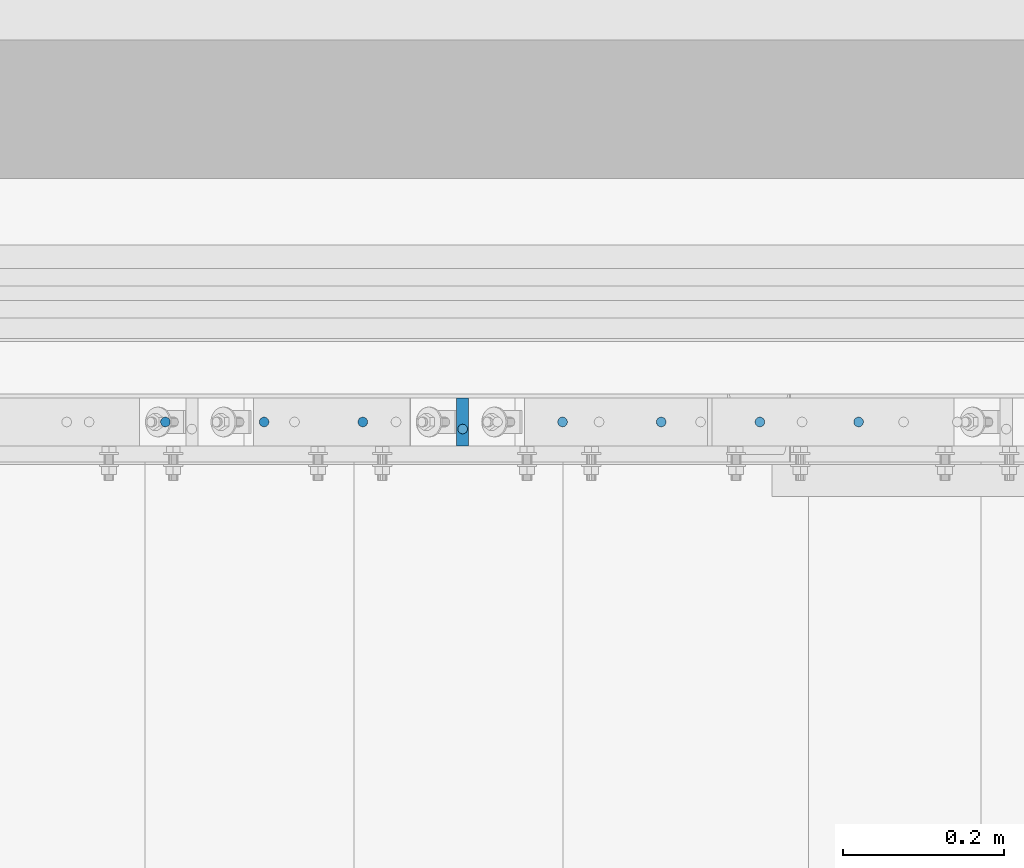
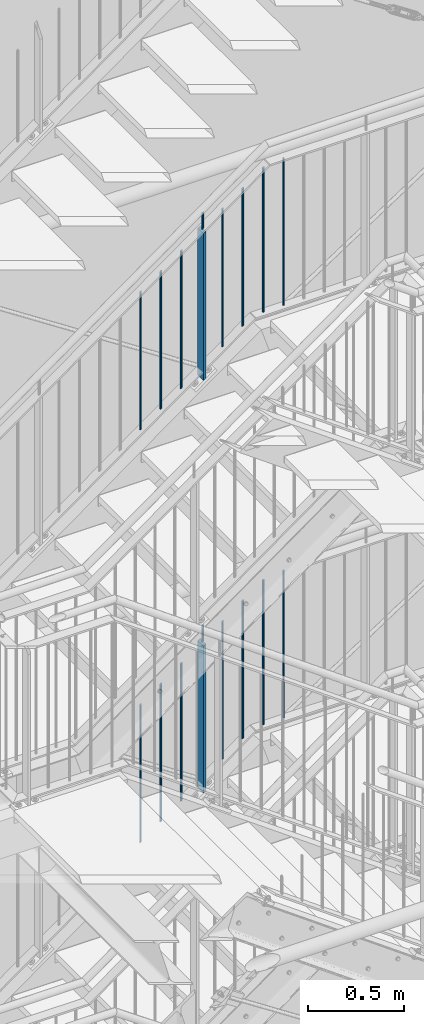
# One storey, part 82 of 831: 18 columns.
"""IFC2X3 building model written with IfcOpenShell, lengths in millimetres."""

from ifc_helpers import new_model, entity, si_unit, converted_unit, frame, origin, origin_with_axes, origin_2d, place, context, project, spatial, rectangle, circle, extrude, clip, halfspace, material, element, save


model = new_model("IFC2X3")

# Units and contexts
model_context = context("Model", 3, precision=1e-09, world=origin_with_axes())
ifc_project = project(units=[si_unit("LENGTHUNIT", "METRE", prefix="MILLI"), si_unit("AREAUNIT", "SQUARE_METRE"), si_unit("VOLUMEUNIT", "CUBIC_METRE"), converted_unit("PLANEANGLEUNIT", "DEGREE", entity("IfcPlaneAngleMeasure", 0.01745329), si_unit("PLANEANGLEUNIT", "RADIAN"), dimensions=[0, 0, 0, 0, 0, 0, 0])], contexts=[model_context])

# Site, building, storey
site_placement = place(None, origin_with_axes())
site = spatial("IfcSite", under=ifc_project, at=site_placement, Name="Site", CompositionType="ELEMENT")
building_placement = place(site_placement, origin_with_axes())
building = spatial("IfcBuilding", under=site, at=building_placement, Name="Struktur 1", CompositionType="ELEMENT")
storey_placement = place(building_placement, origin_with_axes())
storey = spatial("IfcBuildingStorey", under=building, at=storey_placement, Name="Default Storey", CompositionType="ELEMENT", Elevation=0.0)

# Columns
ifc_material = material(Name="S235JR")
column_1_placement = place(None, frame((6671.713688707, 7347.936971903, 9481.925194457), z_axis=(0.0, 0.0, 1.0), x_axis=(0.0, -1.0, 0.0)))
element("IfcColumn", 1, at=column_1_placement, inside=storey, material=ifc_material, Name="Bar#2", ObjectType="Bar#2", context=model_context, shape_type="Clipping", body=[
    clip(clip(extrude(circle(Radius=6.0, at=origin_2d()), origin(), (0.0, 0.0, -1.0), 120.942253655), halfspace(frame((7347.936971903, -8830.865135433, -6495.864683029), z_axis=(0.0, -0.585945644, 0.810350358), x_axis=(1.0, 0.0, 0.0)), True)), halfspace(frame((7347.936971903, -8878.346089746, -6430.199533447), z_axis=(0.0, 0.585945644, -0.810350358), x_axis=(-1.0, 0.0, 0.0)), True)),
])
column_2_placement = place(None, frame((6671.713688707, 7356.736971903, 9397.27412433), z_axis=(0.0, 0.0, 1.0), x_axis=(1.0, 0.0, 0.0)))
element("IfcColumn", 2, at=column_2_placement, inside=storey, material=ifc_material, Name="Railing_Post_Stair#2", ObjectType="Railing_Post_Stair#2", context=model_context, shape_type="Clipping", body=[
    clip(clip(extrude(rectangle(XDim=15.0, YDim=60.0, at=origin_2d()), origin(), (0.0, 0.0, -1.0), 1013.13824851), halfspace(frame((-8380.184833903, -7356.736971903, -7034.494880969), z_axis=(-0.585945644, 0.0, 0.810350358), x_axis=(0.0, -1.0, 0.0)), True)), halfspace(frame((-8825.004507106, -7356.736971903, -6419.318737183), z_axis=(0.585945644, 0.0, -0.810350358), x_axis=(0.0, 1.0, 0.0)), True)),
])
column_3_placement = place(None, frame((6301.963641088, 7356.736971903, 9102.227126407), z_axis=(0.0, 0.0, 1.0), x_axis=(1.0, 0.0, 0.0)))
element("IfcColumn", 3, at=column_3_placement, inside=storey, material=ifc_material, Name="Railing_Picket_Stair#11", ObjectType="Railing_Picket_Stair#11", context=model_context, shape_type="Clipping", body=[
    clip(clip(extrude(circle(Radius=6.0, at=origin_2d()), origin(), (0.0, 0.0, -1.0), 896.057999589), halfspace(frame((-8455.254459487, -7356.736971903, -6124.27173926), z_axis=(0.585945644, 0.0, -0.810350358), x_axis=(0.0, 1.0, 0.0)), True)), halfspace(frame((-8039.732068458, -7356.736971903, -6698.930365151), z_axis=(-0.585945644, 0.0, 0.810350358), x_axis=(0.0, -1.0, 0.0)), True)),
])
column_4_placement = place(None, frame((6424.713664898, 7356.736971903, 9190.98483593), z_axis=(0.0, 0.0, 1.0), x_axis=(1.0, 0.0, 0.0)))
element("IfcColumn", 4, at=column_4_placement, inside=storey, material=ifc_material, Name="Railing_Picket_Stair#12", ObjectType="Railing_Picket_Stair#12", context=model_context, shape_type="Clipping", body=[
    clip(clip(extrude(circle(Radius=6.0, at=origin_2d()), origin(), (0.0, 0.0, -1.0), 896.057999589), halfspace(frame((-8578.004483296, -7356.736971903, -6213.029448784), z_axis=(0.585945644, 0.0, -0.810350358), x_axis=(0.0, 1.0, 0.0)), True)), halfspace(frame((-8162.482092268, -7356.736971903, -6787.688074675), z_axis=(-0.585945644, 0.0, 0.810350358), x_axis=(0.0, -1.0, 0.0)), True)),
])
column_5_placement = place(None, frame((6547.463688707, 7356.736971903, 9279.742545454), z_axis=(0.0, 0.0, 1.0), x_axis=(1.0, 0.0, 0.0)))
element("IfcColumn", 5, at=column_5_placement, inside=storey, material=ifc_material, Name="Railing_Picket_Stair#13", ObjectType="Railing_Picket_Stair#13", context=model_context, shape_type="Clipping", body=[
    clip(clip(extrude(circle(Radius=6.0, at=origin_2d()), origin(), (0.0, 0.0, -1.0), 896.057999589), halfspace(frame((-8700.754507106, -7356.736971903, -6301.787158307), z_axis=(0.585945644, 0.0, -0.810350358), x_axis=(0.0, 1.0, 0.0)), True)), halfspace(frame((-8285.232116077, -7356.736971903, -6876.445784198), z_axis=(-0.585945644, 0.0, 0.810350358), x_axis=(0.0, -1.0, 0.0)), True)),
])
column_6_placement = place(None, frame((6795.963688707, 7356.736971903, 9459.427160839), z_axis=(0.0, 0.0, 1.0), x_axis=(1.0, 0.0, 0.0)))
element("IfcColumn", 6, at=column_6_placement, inside=storey, material=ifc_material, Name="Railing_Picket_Stair#14", ObjectType="Railing_Picket_Stair#14", context=model_context, shape_type="Clipping", body=[
    clip(clip(extrude(circle(Radius=6.0, at=origin_2d()), origin(), (0.0, 0.0, -1.0), 896.057999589), halfspace(frame((-8949.254507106, -7356.736971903, -6481.471773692), z_axis=(0.585945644, 0.0, -0.810350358), x_axis=(0.0, 1.0, 0.0)), True)), halfspace(frame((-8533.732116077, -7356.736971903, -7056.130399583), z_axis=(-0.585945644, 0.0, 0.810350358), x_axis=(0.0, -1.0, 0.0)), True)),
])
column_7_placement = place(None, frame((6918.713712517, 7356.736971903, 9548.184870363), z_axis=(0.0, 0.0, 1.0), x_axis=(1.0, 0.0, 0.0)))
element("IfcColumn", 7, at=column_7_placement, inside=storey, material=ifc_material, Name="Railing_Picket_Stair#15", ObjectType="Railing_Picket_Stair#15", context=model_context, shape_type="Clipping", body=[
    clip(clip(extrude(circle(Radius=6.0, at=origin_2d()), origin(), (0.0, 0.0, -1.0), 896.057999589), halfspace(frame((-9072.004530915, -7356.736971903, -6570.229483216), z_axis=(0.585945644, 0.0, -0.810350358), x_axis=(0.0, 1.0, 0.0)), True)), halfspace(frame((-8656.482139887, -7356.736971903, -7144.888109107), z_axis=(-0.585945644, 0.0, 0.810350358), x_axis=(0.0, -1.0, 0.0)), True)),
])
column_8_placement = place(None, frame((7041.463736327, 7356.736971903, 9636.942579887), z_axis=(0.0, 0.0, 1.0), x_axis=(1.0, 0.0, 0.0)))
element("IfcColumn", 8, at=column_8_placement, inside=storey, material=ifc_material, Name="Railing_Picket_Landing#16", ObjectType="Railing_Picket_Landing#16", context=model_context, shape_type="Clipping", body=[
    clip(extrude(circle(Radius=6.0, at=origin_2d()), origin(), (0.0, 0.0, -1.0), 930.942579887), halfspace(frame((-9194.754554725, -7356.736971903, -6658.98719274), z_axis=(0.585945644, 0.0, -0.810350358), x_axis=(0.0, 1.0, 0.0)), True)),
])
column_9_placement = place(None, frame((7164.213760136, 7356.736971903, 9658.285281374), z_axis=(0.0, 0.0, 1.0), x_axis=(1.0, 0.0, 0.0)))
element("IfcColumn", 9, at=column_9_placement, inside=storey, material=ifc_material, Name="Railing_Picket_Landing#17", ObjectType="Railing_Picket_Landing#17", context=model_context, shape_type="Clipping", body=[
    clip(clip(extrude(circle(Radius=6.0, at=origin_2d()), origin(), (0.0, 0.0, -1.0), 965.770562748), halfspace(frame((-7164.213760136, -7356.736971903, -13.486281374), z_axis=(0.0, 0.0, -1.0), x_axis=(-1.0, 0.0, 0.0)), True)), halfspace(frame((-7164.213760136, -7356.736971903, -952.284281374), z_axis=(0.0, 0.0, 1.0), x_axis=(1.0, 0.0, 0.0)), True)),
])
column_10_placement = place(None, frame((6671.713688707, 7356.736971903, 12027.303192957), z_axis=(0.0, 0.0, 1.0), x_axis=(1.0, 0.0, 0.0)))
element("IfcColumn", 10, at=column_10_placement, inside=storey, material=ifc_material, Name="Railing_Post_Stair#2", ObjectType="Railing_Post_Stair#2", context=model_context, shape_type="Clipping", body=[
    clip(clip(extrude(rectangle(XDim=15.0, YDim=60.0, at=origin_2d()), origin(), (0.0, 0.0, -1.0), 1013.129684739), halfspace(frame((-9631.55343364, -7356.736971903, -7926.116794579), z_axis=(-0.585213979, 0.0, 0.810878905), x_axis=(0.0, -1.0, 0.0)), True)), halfspace(frame((-10076.126978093, -7356.736971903, -7310.110817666), z_axis=(0.585213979, 0.0, -0.810878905), x_axis=(0.0, 1.0, 0.0)), True)),
])
column_11_placement = place(None, frame((6301.963641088, 7356.736971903, 11732.782141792), z_axis=(0.0, 0.0, 1.0), x_axis=(1.0, 0.0, 0.0)))
element("IfcColumn", 11, at=column_11_placement, inside=storey, material=ifc_material, Name="Railing_Picket_Stair#11", ObjectType="Railing_Picket_Stair#11", context=model_context, shape_type="Clipping", body=[
    clip(clip(extrude(circle(Radius=6.0, at=origin_2d()), origin(), (0.0, 0.0, -1.0), 896.125751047), halfspace(frame((-9706.376930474, -7356.736971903, -7015.589766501), z_axis=(0.585213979, 0.0, -0.810878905), x_axis=(0.0, 1.0, 0.0)), True)), halfspace(frame((-9291.064084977, -7356.736971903, -7591.051798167), z_axis=(-0.585213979, 0.0, 0.810878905), x_axis=(0.0, -1.0, 0.0)), True)),
])
column_12_placement = place(None, frame((6424.713664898, 7356.736971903, 11821.37123867), z_axis=(0.0, 0.0, 1.0), x_axis=(1.0, 0.0, 0.0)))
element("IfcColumn", 12, at=column_12_placement, inside=storey, material=ifc_material, Name="Railing_Picket_Stair#12", ObjectType="Railing_Picket_Stair#12", context=model_context, shape_type="Clipping", body=[
    clip(clip(extrude(circle(Radius=6.0, at=origin_2d()), origin(), (0.0, 0.0, -1.0), 896.125751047), halfspace(frame((-9829.126954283, -7356.736971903, -7104.17886338), z_axis=(0.585213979, 0.0, -0.810878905), x_axis=(0.0, 1.0, 0.0)), True)), halfspace(frame((-9413.814108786, -7356.736971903, -7679.640895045), z_axis=(-0.585213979, 0.0, 0.810878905), x_axis=(0.0, -1.0, 0.0)), True)),
])
column_13_placement = place(None, frame((6547.463688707, 7356.736971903, 11909.960335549), z_axis=(0.0, 0.0, 1.0), x_axis=(1.0, 0.0, 0.0)))
element("IfcColumn", 13, at=column_13_placement, inside=storey, material=ifc_material, Name="Railing_Picket_Stair#13", ObjectType="Railing_Picket_Stair#13", context=model_context, shape_type="Clipping", body=[
    clip(clip(extrude(circle(Radius=6.0, at=origin_2d()), origin(), (0.0, 0.0, -1.0), 896.125751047), halfspace(frame((-9951.876978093, -7356.736971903, -7192.767960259), z_axis=(0.585213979, 0.0, -0.810878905), x_axis=(0.0, 1.0, 0.0)), True)), halfspace(frame((-9536.564132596, -7356.736971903, -7768.229991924), z_axis=(-0.585213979, 0.0, 0.810878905), x_axis=(0.0, -1.0, 0.0)), True)),
])
column_14_placement = place(None, frame((6795.963688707, 7356.736971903, 12089.30360483), z_axis=(0.0, 0.0, 1.0), x_axis=(1.0, 0.0, 0.0)))
element("IfcColumn", 14, at=column_14_placement, inside=storey, material=ifc_material, Name="Railing_Picket_Stair#14", ObjectType="Railing_Picket_Stair#14", context=model_context, shape_type="Clipping", body=[
    clip(clip(extrude(circle(Radius=6.0, at=origin_2d()), origin(), (0.0, 0.0, -1.0), 896.125751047), halfspace(frame((-10200.376978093, -7356.736971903, -7372.11122954), z_axis=(0.585213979, 0.0, -0.810878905), x_axis=(0.0, 1.0, 0.0)), True)), halfspace(frame((-9785.064132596, -7356.736971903, -7947.573261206), z_axis=(-0.585213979, 0.0, 0.810878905), x_axis=(0.0, -1.0, 0.0)), True)),
])
column_15_placement = place(None, frame((6918.713712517, 7356.736971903, 12177.892701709), z_axis=(0.0, 0.0, 1.0), x_axis=(1.0, 0.0, 0.0)))
element("IfcColumn", 15, at=column_15_placement, inside=storey, material=ifc_material, Name="Railing_Picket_Stair#15", ObjectType="Railing_Picket_Stair#15", context=model_context, shape_type="Clipping", body=[
    clip(clip(extrude(circle(Radius=6.0, at=origin_2d()), origin(), (0.0, 0.0, -1.0), 896.125751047), halfspace(frame((-10323.127001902, -7356.736971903, -7460.700326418), z_axis=(0.585213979, 0.0, -0.810878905), x_axis=(0.0, 1.0, 0.0)), True)), halfspace(frame((-9907.814156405, -7356.736971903, -8036.162358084), z_axis=(-0.585213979, 0.0, 0.810878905), x_axis=(0.0, -1.0, 0.0)), True)),
])
column_16_placement = place(None, frame((7041.463736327, 7356.736971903, 12266.481798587), z_axis=(0.0, 0.0, 1.0), x_axis=(1.0, 0.0, 0.0)))
element("IfcColumn", 16, at=column_16_placement, inside=storey, material=ifc_material, Name="Railing_Picket_Landing#16", ObjectType="Railing_Picket_Landing#16", context=model_context, shape_type="Clipping", body=[
    clip(extrude(circle(Radius=6.0, at=origin_2d()), origin(), (0.0, 0.0, -1.0), 930.981798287), halfspace(frame((-10445.877025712, -7356.736971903, -7549.289423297), z_axis=(0.585213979, 0.0, -0.810878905), x_axis=(0.0, 1.0, 0.0)), True)),
])
column_17_placement = place(None, frame((7164.213760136, 7356.736971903, 12287.785281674), z_axis=(0.0, 0.0, 1.0), x_axis=(1.0, 0.0, 0.0)))
element("IfcColumn", 17, at=column_17_placement, inside=storey, material=ifc_material, Name="Railing_Picket_Landing#17", ObjectType="Railing_Picket_Landing#17", context=model_context, shape_type="Clipping", body=[
    clip(clip(extrude(circle(Radius=6.0, at=origin_2d()), origin(), (0.0, 0.0, -1.0), 965.770562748), halfspace(frame((-7164.213760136, -7356.736971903, -13.486281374), z_axis=(0.0, 0.0, -1.0), x_axis=(-1.0, 0.0, 0.0)), True)), halfspace(frame((-7164.213760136, -7356.736971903, -952.284281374), z_axis=(0.0, 0.0, 1.0), x_axis=(1.0, 0.0, 0.0)), True)),
])
column_18_placement = place(None, frame((6671.713688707, 7347.936971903, 12111.964267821), z_axis=(0.0, 0.0, 1.0), x_axis=(0.0, -1.0, 0.0)))
element("IfcColumn", 18, at=column_18_placement, inside=storey, material=ifc_material, Name="Bar#2", ObjectType="Bar#2", context=model_context, shape_type="Clipping", body=[
    clip(clip(extrude(circle(Radius=6.0, at=origin_2d()), origin(), (0.0, 0.0, -1.0), 120.928603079), halfspace(frame((7347.936971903, -10081.980288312, -7386.661481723), z_axis=(0.0, -0.585213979, 0.810878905), x_axis=(1.0, 0.0, 0.0)), True)), halfspace(frame((7347.936971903, -10129.432884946, -7320.910643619), z_axis=(0.0, 0.585213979, -0.810878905), x_axis=(-1.0, 0.0, 0.0)), True)),
])

save(model, "model.ifc")
